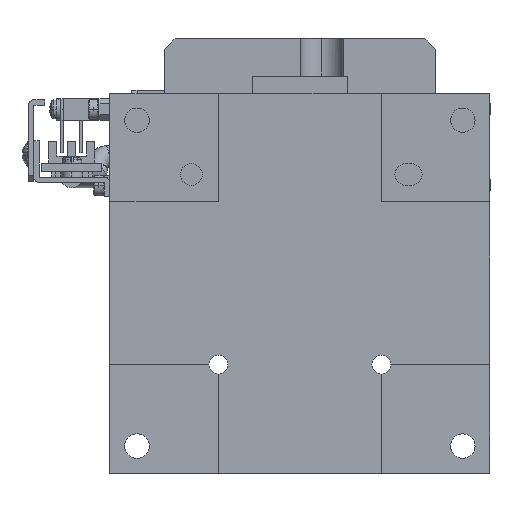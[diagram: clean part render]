
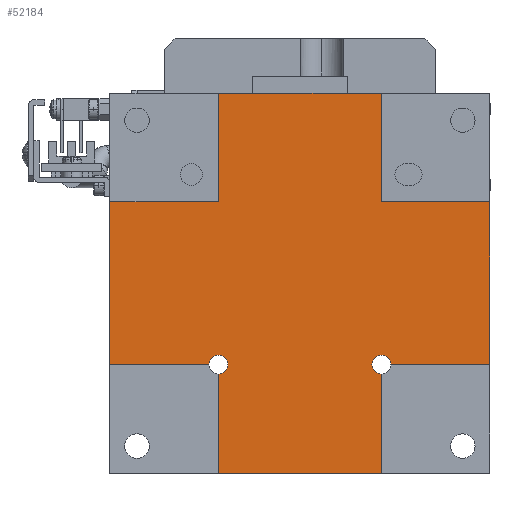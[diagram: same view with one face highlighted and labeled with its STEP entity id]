
A CAD part, front view. The second image highlights one B-rep face of the part: STEP entity #52184.
In plain terms, the highlighted planar face has unit normal (0, -1, 0) as drawn and (1, 0, 0) by its records, which use the part's own axes.
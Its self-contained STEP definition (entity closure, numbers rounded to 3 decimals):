
#81 = VECTOR ( 'NONE', #50663, 1000. ) ;
#237 = CARTESIAN_POINT ( 'NONE',  ( -44.668, 125.584, -151.773 ) ) ;
#813 = CARTESIAN_POINT ( 'NONE',  ( -44.668, 175.584, -153.523 ) ) ;
#1339 = EDGE_CURVE ( 'NONE', #6079, #62489, #41842, .T. ) ;
#1513 = LINE ( 'NONE', #41249, #37846 ) ;
#2031 = ORIENTED_EDGE ( 'NONE', *, *, #11136, .F. ) ;
#2056 = CARTESIAN_POINT ( 'NONE',  ( -44.668, 105.584, -153.523 ) ) ;
#2748 = LINE ( 'NONE', #22364, #43930 ) ;
#2880 = EDGE_CURVE ( 'NONE', #42108, #50165, #18207, .T. ) ;
#3033 = CARTESIAN_POINT ( 'NONE',  ( -44.668, 125.584, -173.523 ) ) ;
#4288 = DIRECTION ( 'NONE',  ( 0., 0., 1. ) ) ;
#4526 = CIRCLE ( 'NONE', #31713, 1.75 ) ;
#4798 = VERTEX_POINT ( 'NONE', #813 ) ;
#5172 = DIRECTION ( 'NONE',  ( 0., 0., -1. ) ) ;
#5612 = CARTESIAN_POINT ( 'NONE',  ( -44.668, 157.334, -153.523 ) ) ;
#6079 = VERTEX_POINT ( 'NONE', #21386 ) ;
#6096 = DIRECTION ( 'NONE',  ( 0., 0., -1. ) ) ;
#7224 = EDGE_LOOP ( 'NONE', ( #33460, #19964, #64432, #54650, #62509, #21350, #19202, #39556, #38950, #14465, #25491, #61986, #2031, #56999, #52324, #15834 ) ) ;
#7403 = DIRECTION ( 'NONE',  ( 0., 0., 1. ) ) ;
#7798 = CARTESIAN_POINT ( 'NONE',  ( -44.668, 105.584, -153.523 ) ) ;
#9389 = EDGE_CURVE ( 'NONE', #20493, #63547, #20517, .T. ) ;
#9653 = VERTEX_POINT ( 'NONE', #45598 ) ;
#10357 = EDGE_CURVE ( 'NONE', #62489, #37402, #18731, .T. ) ;
#10487 = CIRCLE ( 'NONE', #51348, 1.75 ) ;
#10678 = EDGE_CURVE ( 'NONE', #9653, #55137, #4526, .T. ) ;
#10697 = VECTOR ( 'NONE', #48938, 1000. ) ;
#10981 = DIRECTION ( 'NONE',  ( 1., 0., 0. ) ) ;
#11136 = EDGE_CURVE ( 'NONE', #62599, #18056, #46332, .T. ) ;
#11243 = CARTESIAN_POINT ( 'NONE',  ( -44.668, 155.584, -123.523 ) ) ;
#14117 = DIRECTION ( 'NONE',  ( 0., 0., 1. ) ) ;
#14465 = ORIENTED_EDGE ( 'NONE', *, *, #49398, .T. ) ;
#15267 = VECTOR ( 'NONE', #33021, 1000. ) ;
#15834 = ORIENTED_EDGE ( 'NONE', *, *, #10678, .F. ) ;
#17037 = VERTEX_POINT ( 'NONE', #48716 ) ;
#17274 = AXIS2_PLACEMENT_3D ( 'NONE', #55122, #45394, #5172 ) ;
#18056 = VERTEX_POINT ( 'NONE', #54272 ) ;
#18207 = CIRCLE ( 'NONE', #59738, 1.75 ) ;
#18731 = LINE ( 'NONE', #3033, #57499 ) ;
#19202 = ORIENTED_EDGE ( 'NONE', *, *, #10357, .F. ) ;
#19370 = DIRECTION ( 'NONE',  ( 1., 0., 0. ) ) ;
#19743 = PLANE ( 'NONE',  #17274 ) ;
#19964 = ORIENTED_EDGE ( 'NONE', *, *, #21105, .T. ) ;
#20302 = LINE ( 'NONE', #30729, #29013 ) ;
#20472 = CARTESIAN_POINT ( 'NONE',  ( -44.668, 155.584, -153.523 ) ) ;
#20493 = VERTEX_POINT ( 'NONE', #11243 ) ;
#20517 = LINE ( 'NONE', #32196, #41062 ) ;
#20686 = VERTEX_POINT ( 'NONE', #53394 ) ;
#21105 = EDGE_CURVE ( 'NONE', #41645, #4798, #25001, .T. ) ;
#21350 = ORIENTED_EDGE ( 'NONE', *, *, #40033, .F. ) ;
#21386 = CARTESIAN_POINT ( 'NONE',  ( -44.668, 105.584, -123.523 ) ) ;
#21545 = CARTESIAN_POINT ( 'NONE',  ( -44.668, 155.584, -173.523 ) ) ;
#22364 = CARTESIAN_POINT ( 'NONE',  ( -44.668, 105.584, -153.523 ) ) ;
#25001 = LINE ( 'NONE', #61727, #51046 ) ;
#25491 = ORIENTED_EDGE ( 'NONE', *, *, #2880, .F. ) ;
#26226 = CARTESIAN_POINT ( 'NONE',  ( -44.668, 155.584, -153.523 ) ) ;
#26749 = EDGE_CURVE ( 'NONE', #17037, #55137, #58731, .T. ) ;
#27911 = VECTOR ( 'NONE', #62049, 1000. ) ;
#28277 = DIRECTION ( 'NONE',  ( 0., 0., 1. ) ) ;
#28600 = CARTESIAN_POINT ( 'NONE',  ( -44.668, 125.584, -103.523 ) ) ;
#29013 = VECTOR ( 'NONE', #14117, 1000. ) ;
#29999 = DIRECTION ( 'NONE',  ( 0., 0., -1. ) ) ;
#30490 = DIRECTION ( 'NONE',  ( 1., 0., 0. ) ) ;
#30729 = CARTESIAN_POINT ( 'NONE',  ( -44.668, 175.584, -153.523 ) ) ;
#30911 = EDGE_CURVE ( 'NONE', #20493, #20686, #49456, .T. ) ;
#31713 = AXIS2_PLACEMENT_3D ( 'NONE', #20472, #30490, #65455 ) ;
#32196 = CARTESIAN_POINT ( 'NONE',  ( -44.668, 155.584, -173.523 ) ) ;
#32208 = CARTESIAN_POINT ( 'NONE',  ( -44.668, 155.584, -155.273 ) ) ;
#33021 = DIRECTION ( 'NONE',  ( 0., 1., 0. ) ) ;
#33460 = ORIENTED_EDGE ( 'NONE', *, *, #38598, .F. ) ;
#34195 = DIRECTION ( 'NONE',  ( 0., 0., -1. ) ) ;
#34353 = CARTESIAN_POINT ( 'NONE',  ( -44.668, 125.584, -173.523 ) ) ;
#35240 = EDGE_CURVE ( 'NONE', #4798, #20686, #20302, .T. ) ;
#35947 = DIRECTION ( 'NONE',  ( 0., 1., 0. ) ) ;
#36029 = VECTOR ( 'NONE', #4288, 1000. ) ;
#37402 = VERTEX_POINT ( 'NONE', #28600 ) ;
#37846 = VECTOR ( 'NONE', #35947, 1000. ) ;
#38598 = EDGE_CURVE ( 'NONE', #41645, #9653, #10487, .T. ) ;
#38805 = LINE ( 'NONE', #45817, #81 ) ;
#38950 = ORIENTED_EDGE ( 'NONE', *, *, #60788, .F. ) ;
#39556 = ORIENTED_EDGE ( 'NONE', *, *, #1339, .F. ) ;
#40033 = EDGE_CURVE ( 'NONE', #37402, #63547, #1513, .T. ) ;
#40289 = DIRECTION ( 'NONE',  ( 0., 1., 0. ) ) ;
#41062 = VECTOR ( 'NONE', #7403, 1000. ) ;
#41249 = CARTESIAN_POINT ( 'NONE',  ( -44.668, 125.584, -103.523 ) ) ;
#41645 = VERTEX_POINT ( 'NONE', #5612 ) ;
#41842 = LINE ( 'NONE', #55139, #61652 ) ;
#42108 = VERTEX_POINT ( 'NONE', #237 ) ;
#42855 = AXIS2_PLACEMENT_3D ( 'NONE', #64780, #54511, #34195 ) ;
#43930 = VECTOR ( 'NONE', #47328, 1000. ) ;
#44164 = CARTESIAN_POINT ( 'NONE',  ( -44.668, 123.834, -153.523 ) ) ;
#45394 = DIRECTION ( 'NONE',  ( 1., 0., 0. ) ) ;
#45598 = CARTESIAN_POINT ( 'NONE',  ( -44.668, 155.584, -151.773 ) ) ;
#45817 = CARTESIAN_POINT ( 'NONE',  ( -44.668, 125.584, -173.523 ) ) ;
#45819 = FACE_OUTER_BOUND ( 'NONE', #7224, .T. ) ;
#46332 = LINE ( 'NONE', #34353, #36029 ) ;
#47328 = DIRECTION ( 'NONE',  ( 0., 0., 1. ) ) ;
#48716 = CARTESIAN_POINT ( 'NONE',  ( -44.668, 155.584, -173.523 ) ) ;
#48938 = DIRECTION ( 'NONE',  ( 0., 1., 0. ) ) ;
#49398 = EDGE_CURVE ( 'NONE', #58044, #50165, #60483, .T. ) ;
#49456 = LINE ( 'NONE', #59335, #10697 ) ;
#50165 = VERTEX_POINT ( 'NONE', #44164 ) ;
#50488 = CARTESIAN_POINT ( 'NONE',  ( -44.668, 125.584, -153.523 ) ) ;
#50663 = DIRECTION ( 'NONE',  ( 0., 1., 0. ) ) ;
#51046 = VECTOR ( 'NONE', #61965, 1000. ) ;
#51348 = AXIS2_PLACEMENT_3D ( 'NONE', #26226, #10981, #6096 ) ;
#52184 = ADVANCED_FACE ( 'NONE', ( #45819 ), #19743, .T. ) ;
#52324 = ORIENTED_EDGE ( 'NONE', *, *, #26749, .T. ) ;
#53394 = CARTESIAN_POINT ( 'NONE',  ( -44.668, 175.584, -123.523 ) ) ;
#54272 = CARTESIAN_POINT ( 'NONE',  ( -44.668, 125.584, -155.273 ) ) ;
#54511 = DIRECTION ( 'NONE',  ( 1., 0., 0. ) ) ;
#54650 = ORIENTED_EDGE ( 'NONE', *, *, #30911, .F. ) ;
#54781 = EDGE_CURVE ( 'NONE', #18056, #42108, #58342, .T. ) ;
#55122 = CARTESIAN_POINT ( 'NONE',  ( -44.668, 125.584, -173.523 ) ) ;
#55137 = VERTEX_POINT ( 'NONE', #32208 ) ;
#55139 = CARTESIAN_POINT ( 'NONE',  ( -44.668, 105.584, -123.523 ) ) ;
#56999 = ORIENTED_EDGE ( 'NONE', *, *, #61748, .T. ) ;
#57499 = VECTOR ( 'NONE', #28277, 1000. ) ;
#57738 = CARTESIAN_POINT ( 'NONE',  ( -44.668, 155.584, -103.523 ) ) ;
#58044 = VERTEX_POINT ( 'NONE', #2056 ) ;
#58109 = CARTESIAN_POINT ( 'NONE',  ( -44.668, 125.584, -173.523 ) ) ;
#58342 = CIRCLE ( 'NONE', #42855, 1.75 ) ;
#58731 = LINE ( 'NONE', #21545, #27911 ) ;
#59335 = CARTESIAN_POINT ( 'NONE',  ( -44.668, 105.584, -123.523 ) ) ;
#59738 = AXIS2_PLACEMENT_3D ( 'NONE', #50488, #19370, #29999 ) ;
#60483 = LINE ( 'NONE', #7798, #15267 ) ;
#60788 = EDGE_CURVE ( 'NONE', #58044, #6079, #2748, .T. ) ;
#61652 = VECTOR ( 'NONE', #40289, 1000. ) ;
#61727 = CARTESIAN_POINT ( 'NONE',  ( -44.668, 105.584, -153.523 ) ) ;
#61748 = EDGE_CURVE ( 'NONE', #62599, #17037, #38805, .T. ) ;
#61901 = CARTESIAN_POINT ( 'NONE',  ( -44.668, 125.584, -123.523 ) ) ;
#61965 = DIRECTION ( 'NONE',  ( 0., 1., 0. ) ) ;
#61986 = ORIENTED_EDGE ( 'NONE', *, *, #54781, .F. ) ;
#62049 = DIRECTION ( 'NONE',  ( 0., 0., 1. ) ) ;
#62489 = VERTEX_POINT ( 'NONE', #61901 ) ;
#62509 = ORIENTED_EDGE ( 'NONE', *, *, #9389, .T. ) ;
#62599 = VERTEX_POINT ( 'NONE', #58109 ) ;
#63547 = VERTEX_POINT ( 'NONE', #57738 ) ;
#64432 = ORIENTED_EDGE ( 'NONE', *, *, #35240, .T. ) ;
#64780 = CARTESIAN_POINT ( 'NONE',  ( -44.668, 125.584, -153.523 ) ) ;
#65455 = DIRECTION ( 'NONE',  ( 0., 0., -1. ) ) ;
